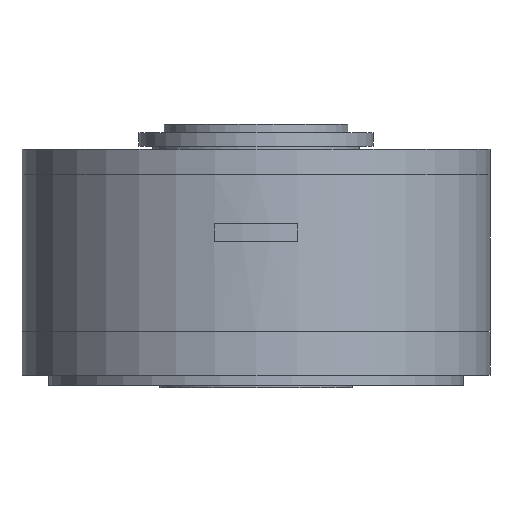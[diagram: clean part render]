
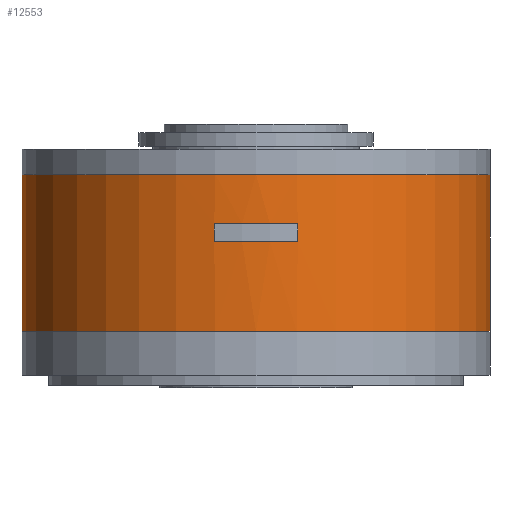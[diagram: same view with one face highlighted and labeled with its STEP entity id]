
A CAD part, front view. The second image highlights one B-rep face of the part: STEP entity #12553.
In plain terms, the highlighted cylindrical face has radius 140 mm (diameter 280 mm), a partial arc.
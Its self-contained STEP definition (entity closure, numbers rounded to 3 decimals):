
#722 = CARTESIAN_POINT ( 'NONE',  ( 25., -137.75, 90.5 ) ) ;
#723 = CARTESIAN_POINT ( 'NONE',  ( -25., -137.75, 90.5 ) ) ;
#724 = CARTESIAN_POINT ( 'NONE',  ( 25., -137.75, 80. ) ) ;
#725 = CARTESIAN_POINT ( 'NONE',  ( -25., -137.75, 80. ) ) ;
#2154 = VECTOR ( 'NONE', #2819, 1000. ) ;
#2158 = LINE ( 'NONE', #2818, #2154 ) ;
#2160 = LINE ( 'NONE', #2813, #2161 ) ;
#2161 = VECTOR ( 'NONE', #2814, 1000. ) ;
#2179 = LINE ( 'NONE', #2859, #2184 ) ;
#2184 = VECTOR ( 'NONE', #2860, 1000. ) ;
#2187 = LINE ( 'NONE', #2870, #2189 ) ;
#2188 = CIRCLE ( 'NONE', #6467, 140. ) ;
#2189 = VECTOR ( 'NONE', #2871, 1000. ) ;
#2190 = CIRCLE ( 'NONE', #6462, 140. ) ;
#2191 = CIRCLE ( 'NONE', #6469, 140. ) ;
#2192 = CIRCLE ( 'NONE', #6473, 140. ) ;
#2331 = FACE_BOUND ( 'NONE', #9035, .T. ) ;
#2333 = FACE_OUTER_BOUND ( 'NONE', #8972, .T. ) ;
#2338 = CYLINDRICAL_SURFACE ( 'NONE', #6664, 140. ) ;
#2813 = CARTESIAN_POINT ( 'NONE',  ( -140., 0., 0. ) ) ;
#2814 = DIRECTION ( 'NONE',  ( 0., 0., 1. ) ) ;
#2818 = CARTESIAN_POINT ( 'NONE',  ( 140., 0., 0. ) ) ;
#2819 = DIRECTION ( 'NONE',  ( 0., 0., 1. ) ) ;
#2851 = CARTESIAN_POINT ( 'NONE',  ( 0., 0., 26.1 ) ) ;
#2856 = CARTESIAN_POINT ( 'NONE',  ( 0., 0., 90.5 ) ) ;
#2859 = CARTESIAN_POINT ( 'NONE',  ( -25., -137.75, 0. ) ) ;
#2860 = DIRECTION ( 'NONE',  ( 0., 0., -1. ) ) ;
#2861 = CARTESIAN_POINT ( 'NONE',  ( 0., 0., 119.9 ) ) ;
#2862 = DIRECTION ( 'NONE',  ( 0., 0., -1. ) ) ;
#2863 = DIRECTION ( 'NONE',  ( -1., 0., 0. ) ) ;
#2864 = CARTESIAN_POINT ( 'NONE',  ( 0., 0., 80. ) ) ;
#2865 = DIRECTION ( 'NONE',  ( 0., 0., -1. ) ) ;
#2866 = DIRECTION ( 'NONE',  ( -1., 0., 0. ) ) ;
#2868 = DIRECTION ( 'NONE',  ( 0., 0., 1. ) ) ;
#2869 = DIRECTION ( 'NONE',  ( 1., 0., 0. ) ) ;
#2870 = CARTESIAN_POINT ( 'NONE',  ( 25., -137.75, 0. ) ) ;
#2871 = DIRECTION ( 'NONE',  ( 0., 0., 1. ) ) ;
#2873 = DIRECTION ( 'NONE',  ( 0., 0., 1. ) ) ;
#2874 = DIRECTION ( 'NONE',  ( 1., 0., 0. ) ) ;
#3170 = DIRECTION ( 'NONE',  ( 0., 0., 1. ) ) ;
#3173 = DIRECTION ( 'NONE',  ( 1., 0., 0. ) ) ;
#3180 = CARTESIAN_POINT ( 'NONE',  ( 0., 0., 0. ) ) ;
#6146 = VERTEX_POINT ( 'NONE', #9400 ) ;
#6148 = VERTEX_POINT ( 'NONE', #9402 ) ;
#6149 = VERTEX_POINT ( 'NONE', #9403 ) ;
#6150 = VERTEX_POINT ( 'NONE', #9404 ) ;
#6462 = AXIS2_PLACEMENT_3D ( 'NONE', #2856, #2865, #2866 ) ;
#6467 = AXIS2_PLACEMENT_3D ( 'NONE', #2851, #2862, #2863 ) ;
#6469 = AXIS2_PLACEMENT_3D ( 'NONE', #2861, #2868, #2869 ) ;
#6473 = AXIS2_PLACEMENT_3D ( 'NONE', #2864, #2873, #2874 ) ;
#6664 = AXIS2_PLACEMENT_3D ( 'NONE', #3180, #3170, #3173 ) ;
#6873 = ORIENTED_EDGE ( 'NONE', *, *, #12439, .F. ) ;
#6874 = ORIENTED_EDGE ( 'NONE', *, *, #12458, .F. ) ;
#6875 = ORIENTED_EDGE ( 'NONE', *, *, #12441, .T. ) ;
#6876 = ORIENTED_EDGE ( 'NONE', *, *, #12460, .F. ) ;
#6877 = ORIENTED_EDGE ( 'NONE', *, *, #12459, .F. ) ;
#6878 = ORIENTED_EDGE ( 'NONE', *, *, #12461, .F. ) ;
#6879 = ORIENTED_EDGE ( 'NONE', *, *, #12462, .F. ) ;
#6880 = ORIENTED_EDGE ( 'NONE', *, *, #12457, .F. ) ;
#8972 = EDGE_LOOP ( 'NONE', ( #6873, #6874, #6875, #6876 ) ) ;
#9035 = EDGE_LOOP ( 'NONE', ( #6877, #6878, #6879, #6880 ) ) ;
#9400 = CARTESIAN_POINT ( 'NONE',  ( -140., 0., 26.1 ) ) ;
#9402 = CARTESIAN_POINT ( 'NONE',  ( -140., 0., 119.9 ) ) ;
#9403 = CARTESIAN_POINT ( 'NONE',  ( 140., 0., 119.9 ) ) ;
#9404 = CARTESIAN_POINT ( 'NONE',  ( 140., 0., 26.1 ) ) ;
#10295 = VERTEX_POINT ( 'NONE', #722 ) ;
#10296 = VERTEX_POINT ( 'NONE', #723 ) ;
#10297 = VERTEX_POINT ( 'NONE', #724 ) ;
#10298 = VERTEX_POINT ( 'NONE', #725 ) ;
#12439 = EDGE_CURVE ( 'NONE', #6146, #6148, #2160, .T. ) ;
#12441 = EDGE_CURVE ( 'NONE', #6150, #6149, #2158, .T. ) ;
#12457 = EDGE_CURVE ( 'NONE', #10296, #10298, #2179, .T. ) ;
#12458 = EDGE_CURVE ( 'NONE', #6150, #6146, #2188, .T. ) ;
#12459 = EDGE_CURVE ( 'NONE', #10295, #10296, #2190, .T. ) ;
#12460 = EDGE_CURVE ( 'NONE', #6148, #6149, #2191, .T. ) ;
#12461 = EDGE_CURVE ( 'NONE', #10297, #10295, #2187, .T. ) ;
#12462 = EDGE_CURVE ( 'NONE', #10298, #10297, #2192, .T. ) ;
#12553 = ADVANCED_FACE ( 'NONE', ( #2333, #2331 ), #2338, .T. ) ;
